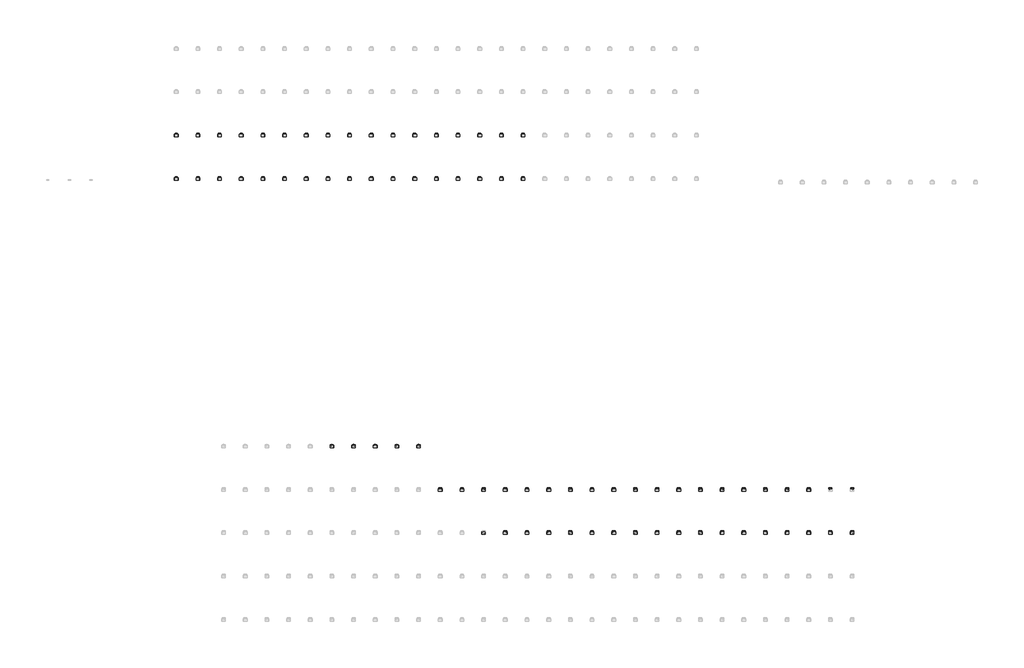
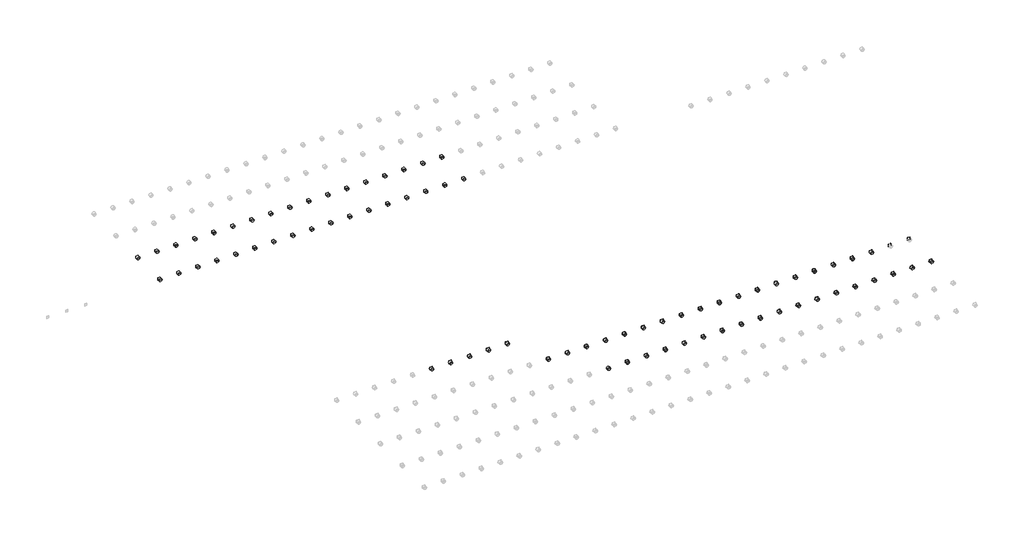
# One storey, part 5 of 18: 76 proxies, 75 cable carrier fittings.
"""IFC4 building model written with IfcOpenShell, lengths in millimetres."""

from ifc_helpers import new_model, si_unit, origin, place, context, project, spatial, transform, mapped, element, save
from components import electrical_fixtures_70e5a59e, electrical_fixtures_cdf9dca8, electrical_fixtures_2a4b2461, electrical_fixtures_0bab7950, electrical_fixtures_51af6a40, electrical_fixtures_0646ccb8, cable_carrier_fitting_a64d4eba

model = new_model("IFC4")

# Units and contexts
model_context = context("Model", 3, world=origin())
ifc_project = project(units=[si_unit("LENGTHUNIT", "METRE", prefix="MILLI")], contexts=[model_context])

# Site, building, storey
site = spatial("IfcSite", under=ifc_project)
building = spatial("IfcBuilding", under=site)
storey = spatial("IfcBuildingStorey", under=building, Name="Этаж 01", Elevation=0.0)

# Proxies
placement = place(None, origin())
electrical_fixtures_shape = electrical_fixtures_70e5a59e(model_context)
element("IfcBuildingElementProxy", 1, Name="IEK_Brite_Механизм выключателя : В2 ИО_ВС10-2-9-БрЖ", ObjectType="IEK_Brite_Механизм выключателя : В2 ИО_ВС10-2-9-БрЖ", at=placement, inside=storey, context=model_context, shape_type="MappedRepresentation", body=[
    mapped(electrical_fixtures_shape, transform((23461.6818904, -15400.0, 0.0), x_axis=(1.0, 0.0, 0.0), y_axis=(0.0, 1.0, 0.0), z_axis=(0.0, 0.0, 1.0))),
])
element("IfcBuildingElementProxy", 2, Name="IEK_Brite_Механизм выключателя : В2 ИО_ВС10-2-9-БрКр", ObjectType="IEK_Brite_Механизм выключателя : В2 ИО_ВС10-2-9-БрКр", at=placement, inside=storey, context=model_context, shape_type="MappedRepresentation", body=[
    mapped(electrical_fixtures_shape, transform((23861.6818904, -15400.0, 0.0), x_axis=(1.0, 0.0, 0.0), y_axis=(0.0, 1.0, 0.0), z_axis=(0.0, 0.0, 1.0))),
])
element("IfcBuildingElementProxy", 3, Name="IEK_Brite_Механизм выключателя : В2 ИО_ВС10-2-9-БрМ", ObjectType="IEK_Brite_Механизм выключателя : В2 ИО_ВС10-2-9-БрМ", at=placement, inside=storey, context=model_context, shape_type="MappedRepresentation", body=[
    mapped(electrical_fixtures_shape, transform((24261.6818904, -15400.0, 0.0), x_axis=(1.0, 0.0, 0.0), y_axis=(0.0, 1.0, 0.0), z_axis=(0.0, 0.0, 1.0))),
])
element("IfcBuildingElementProxy", 4, Name="IEK_Brite_Механизм выключателя : В2 ИО_ВС10-2-9-БрС", ObjectType="IEK_Brite_Механизм выключателя : В2 ИО_ВС10-2-9-БрС", at=placement, inside=storey, context=model_context, shape_type="MappedRepresentation", body=[
    mapped(electrical_fixtures_shape, transform((24661.6818904, -15400.0, 0.0), x_axis=(1.0, 0.0, 0.0), y_axis=(0.0, 1.0, 0.0), z_axis=(0.0, 0.0, 1.0))),
])
element("IfcBuildingElementProxy", 5, Name="IEK_Brite_Механизм выключателя : В2 ИО_ВС10-2-9-БрТБ", ObjectType="IEK_Brite_Механизм выключателя : В2 ИО_ВС10-2-9-БрТБ", at=placement, inside=storey, context=model_context, shape_type="MappedRepresentation", body=[
    mapped(electrical_fixtures_shape, transform((25061.6818904, -15400.0, 0.0), x_axis=(1.0, 0.0, 0.0), y_axis=(0.0, 1.0, 0.0), z_axis=(0.0, 0.0, 1.0))),
])
element("IfcBuildingElementProxy", 6, Name="IEK_Brite_Механизм выключателя : В2 ИО_ВС10-2-9-БрЧ", ObjectType="IEK_Brite_Механизм выключателя : В2 ИО_ВС10-2-9-БрЧ", at=placement, inside=storey, context=model_context, shape_type="MappedRepresentation", body=[
    mapped(electrical_fixtures_shape, transform((25461.6818904, -15400.0, 0.0), x_axis=(1.0, 0.0, 0.0), y_axis=(0.0, 1.0, 0.0), z_axis=(0.0, 0.0, 1.0))),
])
element("IfcBuildingElementProxy", 7, Name="IEK_Brite_Механизм выключателя : В2 ИО_ВС10-2-9-БрШ", ObjectType="IEK_Brite_Механизм выключателя : В2 ИО_ВС10-2-9-БрШ", at=placement, inside=storey, context=model_context, shape_type="MappedRepresentation", body=[
    mapped(electrical_fixtures_shape, transform((25861.6818904, -15400.0, 0.0), x_axis=(1.0, 0.0, 0.0), y_axis=(0.0, 1.0, 0.0), z_axis=(0.0, 0.0, 1.0))),
])
electrical_fixtures_2_shape = electrical_fixtures_cdf9dca8(model_context)
element("IfcBuildingElementProxy", 8, Name="IEK_Brite_Механизм выключателя : В3_ВС10-3-0-БрА", ObjectType="IEK_Brite_Механизм выключателя : В3_ВС10-3-0-БрА", at=placement, inside=storey, context=model_context, shape_type="MappedRepresentation", body=[
    mapped(electrical_fixtures_2_shape, transform((26261.6818904, -15400.0, 0.0), x_axis=(1.0, 0.0, 0.0), y_axis=(0.0, 1.0, 0.0), z_axis=(0.0, 0.0, 1.0))),
])
element("IfcBuildingElementProxy", 9, Name="IEK_Brite_Механизм выключателя : В3_ВС10-3-0-БрБ", ObjectType="IEK_Brite_Механизм выключателя : В3_ВС10-3-0-БрБ", at=placement, inside=storey, context=model_context, shape_type="MappedRepresentation", body=[
    mapped(electrical_fixtures_2_shape, transform((26661.6818904, -15400.0, 0.0), x_axis=(1.0, 0.0, 0.0), y_axis=(0.0, 1.0, 0.0), z_axis=(0.0, 0.0, 1.0))),
])
element("IfcBuildingElementProxy", 10, Name="IEK_Brite_Механизм выключателя : В3_ВС10-3-0-БрГ", ObjectType="IEK_Brite_Механизм выключателя : В3_ВС10-3-0-БрГ", at=placement, inside=storey, context=model_context, shape_type="MappedRepresentation", body=[
    mapped(electrical_fixtures_2_shape, transform((27061.6818904, -15400.0, 0.0), x_axis=(1.0, 0.0, 0.0), y_axis=(0.0, 1.0, 0.0), z_axis=(0.0, 0.0, 1.0))),
])
element("IfcBuildingElementProxy", 11, Name="IEK_Brite_Механизм выключателя : В3_ВС10-3-0-БрЖ", ObjectType="IEK_Brite_Механизм выключателя : В3_ВС10-3-0-БрЖ", at=placement, inside=storey, context=model_context, shape_type="MappedRepresentation", body=[
    mapped(electrical_fixtures_2_shape, transform((27461.6818904, -15400.0, 0.0), x_axis=(1.0, 0.0, 0.0), y_axis=(0.0, 1.0, 0.0), z_axis=(0.0, 0.0, 1.0))),
])
element("IfcBuildingElementProxy", 12, Name="IEK_Brite_Механизм выключателя : В3_ВС10-3-0-БрКр", ObjectType="IEK_Brite_Механизм выключателя : В3_ВС10-3-0-БрКр", at=placement, inside=storey, context=model_context, shape_type="MappedRepresentation", body=[
    mapped(electrical_fixtures_2_shape, transform((27861.6818904, -15400.0, 0.0), x_axis=(1.0, 0.0, 0.0), y_axis=(0.0, 1.0, 0.0), z_axis=(0.0, 0.0, 1.0))),
])
element("IfcBuildingElementProxy", 13, Name="IEK_Brite_Механизм выключателя : В3_ВС10-3-0-БрМ", ObjectType="IEK_Brite_Механизм выключателя : В3_ВС10-3-0-БрМ", at=placement, inside=storey, context=model_context, shape_type="MappedRepresentation", body=[
    mapped(electrical_fixtures_2_shape, transform((28261.6818904, -15400.0, 0.0), x_axis=(1.0, 0.0, 0.0), y_axis=(0.0, 1.0, 0.0), z_axis=(0.0, 0.0, 1.0))),
])
element("IfcBuildingElementProxy", 14, Name="IEK_Brite_Механизм выключателя : В3_ВС10-3-0-БрС", ObjectType="IEK_Brite_Механизм выключателя : В3_ВС10-3-0-БрС", at=placement, inside=storey, context=model_context, shape_type="MappedRepresentation", body=[
    mapped(electrical_fixtures_2_shape, transform((28661.6818904, -15400.0, 0.0), x_axis=(1.0, 0.0, 0.0), y_axis=(0.0, 1.0, 0.0), z_axis=(0.0, 0.0, 1.0))),
])
element("IfcBuildingElementProxy", 15, Name="IEK_Brite_Механизм выключателя : В3_ВС10-3-0-БрТБ", ObjectType="IEK_Brite_Механизм выключателя : В3_ВС10-3-0-БрТБ", at=placement, inside=storey, context=model_context, shape_type="MappedRepresentation", body=[
    mapped(electrical_fixtures_2_shape, transform((29061.6818904, -15400.0, 0.0), x_axis=(1.0, 0.0, 0.0), y_axis=(0.0, 1.0, 0.0), z_axis=(0.0, 0.0, 1.0))),
])
element("IfcBuildingElementProxy", 16, Name="IEK_Brite_Механизм выключателя : В3_ВС10-3-0-БрЧ", ObjectType="IEK_Brite_Механизм выключателя : В3_ВС10-3-0-БрЧ", at=placement, inside=storey, context=model_context, shape_type="MappedRepresentation", body=[
    mapped(electrical_fixtures_2_shape, transform((29461.6818904, -15400.0, 0.0), x_axis=(1.0, 0.0, 0.0), y_axis=(0.0, 1.0, 0.0), z_axis=(0.0, 0.0, 1.0))),
])
element("IfcBuildingElementProxy", 17, Name="IEK_Brite_Механизм выключателя : В3_ВС10-3-0-БрШ", ObjectType="IEK_Brite_Механизм выключателя : В3_ВС10-3-0-БрШ", at=placement, inside=storey, context=model_context, shape_type="MappedRepresentation", body=[
    mapped(electrical_fixtures_2_shape, transform((29861.6818904, -15400.0, 0.0), x_axis=(1.0, 0.0, 0.0), y_axis=(0.0, 1.0, 0.0), z_axis=(0.0, 0.0, 1.0))),
])
electrical_fixtures_3_shape = electrical_fixtures_2a4b2461(model_context)
element("IfcBuildingElementProxy", 18, Name="IEK_Brite_Механизм выключателя : ВК_ВС10-1-8-БрА", ObjectType="IEK_Brite_Механизм выключателя : ВК_ВС10-1-8-БрА", at=placement, inside=storey, context=model_context, shape_type="MappedRepresentation", body=[
    mapped(electrical_fixtures_3_shape, transform((22261.6818904, -14600.0, 0.0), x_axis=(1.0, 0.0, 0.0), y_axis=(0.0, 1.0, 0.0), z_axis=(0.0, 0.0, 1.0))),
])
element("IfcBuildingElementProxy", 19, Name="IEK_Brite_Механизм выключателя : ВК_ВС10-1-8-БрБ", ObjectType="IEK_Brite_Механизм выключателя : ВК_ВС10-1-8-БрБ", at=placement, inside=storey, context=model_context, shape_type="MappedRepresentation", body=[
    mapped(electrical_fixtures_3_shape, transform((22661.6818904, -14600.0, 0.0), x_axis=(1.0, 0.0, 0.0), y_axis=(0.0, 1.0, 0.0), z_axis=(0.0, 0.0, 1.0))),
])
element("IfcBuildingElementProxy", 20, Name="IEK_Brite_Механизм выключателя : ВК_ВС10-1-8-БрГ", ObjectType="IEK_Brite_Механизм выключателя : ВК_ВС10-1-8-БрГ", at=placement, inside=storey, context=model_context, shape_type="MappedRepresentation", body=[
    mapped(electrical_fixtures_3_shape, transform((23061.6818904, -14600.0, 0.0), x_axis=(1.0, 0.0, 0.0), y_axis=(0.0, 1.0, 0.0), z_axis=(0.0, 0.0, 1.0))),
])
element("IfcBuildingElementProxy", 21, Name="IEK_Brite_Механизм выключателя : ВК_ВС10-1-8-БрЖ", ObjectType="IEK_Brite_Механизм выключателя : ВК_ВС10-1-8-БрЖ", at=placement, inside=storey, context=model_context, shape_type="MappedRepresentation", body=[
    mapped(electrical_fixtures_3_shape, transform((23461.6818904, -14600.0, 0.0), x_axis=(1.0, 0.0, 0.0), y_axis=(0.0, 1.0, 0.0), z_axis=(0.0, 0.0, 1.0))),
])
element("IfcBuildingElementProxy", 22, Name="IEK_Brite_Механизм выключателя : ВК_ВС10-1-8-БрКр", ObjectType="IEK_Brite_Механизм выключателя : ВК_ВС10-1-8-БрКр", at=placement, inside=storey, context=model_context, shape_type="MappedRepresentation", body=[
    mapped(electrical_fixtures_3_shape, transform((23861.6818904, -14600.0, 0.0), x_axis=(1.0, 0.0, 0.0), y_axis=(0.0, 1.0, 0.0), z_axis=(0.0, 0.0, 1.0))),
])
element("IfcBuildingElementProxy", 23, Name="IEK_Brite_Механизм выключателя : ВК_ВС10-1-8-БрМ", ObjectType="IEK_Brite_Механизм выключателя : ВК_ВС10-1-8-БрМ", at=placement, inside=storey, context=model_context, shape_type="MappedRepresentation", body=[
    mapped(electrical_fixtures_3_shape, transform((24261.6818904, -14600.0, 0.0), x_axis=(1.0, 0.0, 0.0), y_axis=(0.0, 1.0, 0.0), z_axis=(0.0, 0.0, 1.0))),
])
element("IfcBuildingElementProxy", 24, Name="IEK_Brite_Механизм выключателя : ВК_ВС10-1-8-БрС", ObjectType="IEK_Brite_Механизм выключателя : ВК_ВС10-1-8-БрС", at=placement, inside=storey, context=model_context, shape_type="MappedRepresentation", body=[
    mapped(electrical_fixtures_3_shape, transform((24661.6818904, -14600.0, 0.0), x_axis=(1.0, 0.0, 0.0), y_axis=(0.0, 1.0, 0.0), z_axis=(0.0, 0.0, 1.0))),
])
element("IfcBuildingElementProxy", 25, Name="IEK_Brite_Механизм выключателя : ВК_ВС10-1-8-БрТБ", ObjectType="IEK_Brite_Механизм выключателя : ВК_ВС10-1-8-БрТБ", at=placement, inside=storey, context=model_context, shape_type="MappedRepresentation", body=[
    mapped(electrical_fixtures_3_shape, transform((25061.6818904, -14600.0, 0.0), x_axis=(1.0, 0.0, 0.0), y_axis=(0.0, 1.0, 0.0), z_axis=(0.0, 0.0, 1.0))),
])
element("IfcBuildingElementProxy", 26, Name="IEK_Brite_Механизм выключателя : ВК_ВС10-1-8-БрЧ", ObjectType="IEK_Brite_Механизм выключателя : ВК_ВС10-1-8-БрЧ", at=placement, inside=storey, context=model_context, shape_type="MappedRepresentation", body=[
    mapped(electrical_fixtures_3_shape, transform((25461.6818904, -14600.0, 0.0), x_axis=(1.0, 0.0, 0.0), y_axis=(0.0, 1.0, 0.0), z_axis=(0.0, 0.0, 1.0))),
])
element("IfcBuildingElementProxy", 27, Name="IEK_Brite_Механизм выключателя : ВК_ВС10-1-8-БрШ", ObjectType="IEK_Brite_Механизм выключателя : ВК_ВС10-1-8-БрШ", at=placement, inside=storey, context=model_context, shape_type="MappedRepresentation", body=[
    mapped(electrical_fixtures_3_shape, transform((25861.6818904, -14600.0, 0.0), x_axis=(1.0, 0.0, 0.0), y_axis=(0.0, 1.0, 0.0), z_axis=(0.0, 0.0, 1.0))),
])
electrical_fixtures_4_shape = electrical_fixtures_0bab7950(model_context)
element("IfcBuildingElementProxy", 28, Name="IEK_Brite_Механизм выключателя : Зв_ВС10-1-9-БрА", ObjectType="IEK_Brite_Механизм выключателя : Зв_ВС10-1-9-БрА", at=placement, inside=storey, context=model_context, shape_type="MappedRepresentation", body=[
    mapped(electrical_fixtures_4_shape, transform((26261.6818904, -14600.0, 0.0), x_axis=(1.0, 0.0, 0.0), y_axis=(0.0, 1.0, 0.0), z_axis=(0.0, 0.0, 1.0))),
])
element("IfcBuildingElementProxy", 29, Name="IEK_Brite_Механизм выключателя : Зв_ВС10-1-9-БрБ", ObjectType="IEK_Brite_Механизм выключателя : Зв_ВС10-1-9-БрБ", at=placement, inside=storey, context=model_context, shape_type="MappedRepresentation", body=[
    mapped(electrical_fixtures_4_shape, transform((26661.6818904, -14600.0, 0.0), x_axis=(1.0, 0.0, 0.0), y_axis=(0.0, 1.0, 0.0), z_axis=(0.0, 0.0, 1.0))),
])
element("IfcBuildingElementProxy", 30, Name="IEK_Brite_Механизм выключателя : Зв_ВС10-1-9-БрГ", ObjectType="IEK_Brite_Механизм выключателя : Зв_ВС10-1-9-БрГ", at=placement, inside=storey, context=model_context, shape_type="MappedRepresentation", body=[
    mapped(electrical_fixtures_4_shape, transform((27061.6818904, -14600.0, 0.0), x_axis=(1.0, 0.0, 0.0), y_axis=(0.0, 1.0, 0.0), z_axis=(0.0, 0.0, 1.0))),
])
element("IfcBuildingElementProxy", 31, Name="IEK_Brite_Механизм выключателя : Зв_ВС10-1-9-БрЖ", ObjectType="IEK_Brite_Механизм выключателя : Зв_ВС10-1-9-БрЖ", at=placement, inside=storey, context=model_context, shape_type="MappedRepresentation", body=[
    mapped(electrical_fixtures_4_shape, transform((27461.6818904, -14600.0, 0.0), x_axis=(1.0, 0.0, 0.0), y_axis=(0.0, 1.0, 0.0), z_axis=(0.0, 0.0, 1.0))),
])
element("IfcBuildingElementProxy", 32, Name="IEK_Brite_Механизм выключателя : Зв_ВС10-1-9-БрКр", ObjectType="IEK_Brite_Механизм выключателя : Зв_ВС10-1-9-БрКр", at=placement, inside=storey, context=model_context, shape_type="MappedRepresentation", body=[
    mapped(electrical_fixtures_4_shape, transform((27861.6818904, -14600.0, 0.0), x_axis=(1.0, 0.0, 0.0), y_axis=(0.0, 1.0, 0.0), z_axis=(0.0, 0.0, 1.0))),
])
element("IfcBuildingElementProxy", 33, Name="IEK_Brite_Механизм выключателя : Зв_ВС10-1-9-БрМ", ObjectType="IEK_Brite_Механизм выключателя : Зв_ВС10-1-9-БрМ", at=placement, inside=storey, context=model_context, shape_type="MappedRepresentation", body=[
    mapped(electrical_fixtures_4_shape, transform((28261.6818904, -14600.0, 0.0), x_axis=(1.0, 0.0, 0.0), y_axis=(0.0, 1.0, 0.0), z_axis=(0.0, 0.0, 1.0))),
])
element("IfcBuildingElementProxy", 34, Name="IEK_Brite_Механизм выключателя : Зв_ВС10-1-9-БрС", ObjectType="IEK_Brite_Механизм выключателя : Зв_ВС10-1-9-БрС", at=placement, inside=storey, context=model_context, shape_type="MappedRepresentation", body=[
    mapped(electrical_fixtures_4_shape, transform((28661.6818904, -14600.0, 0.0), x_axis=(1.0, 0.0, 0.0), y_axis=(0.0, 1.0, 0.0), z_axis=(0.0, 0.0, 1.0))),
])
element("IfcBuildingElementProxy", 35, Name="IEK_Brite_Механизм выключателя : Зв_ВС10-1-9-БрТБ", ObjectType="IEK_Brite_Механизм выключателя : Зв_ВС10-1-9-БрТБ", at=placement, inside=storey, context=model_context, shape_type="MappedRepresentation", body=[
    mapped(electrical_fixtures_4_shape, transform((29061.6818904, -14600.0, 0.0), x_axis=(1.0, 0.0, 0.0), y_axis=(0.0, 1.0, 0.0), z_axis=(0.0, 0.0, 1.0))),
])
element("IfcBuildingElementProxy", 36, Name="IEK_Brite_Механизм выключателя : Зв_ВС10-1-9-БрЧ", ObjectType="IEK_Brite_Механизм выключателя : Зв_ВС10-1-9-БрЧ", at=placement, inside=storey, context=model_context, shape_type="MappedRepresentation", body=[
    mapped(electrical_fixtures_4_shape, transform((29461.6818904, -14600.0, 0.0), x_axis=(1.0, 0.0, 0.0), y_axis=(0.0, 1.0, 0.0), z_axis=(0.0, 0.0, 1.0))),
])
element("IfcBuildingElementProxy", 37, Name="IEK_Brite_Механизм выключателя : Зв_ВС10-1-9-БрШ", ObjectType="IEK_Brite_Механизм выключателя : Зв_ВС10-1-9-БрШ", at=placement, inside=storey, context=model_context, shape_type="MappedRepresentation", body=[
    mapped(electrical_fixtures_4_shape, transform((29861.6818904, -14600.0, 0.0), x_axis=(1.0, 0.0, 0.0), y_axis=(0.0, 1.0, 0.0), z_axis=(0.0, 0.0, 1.0))),
])
electrical_fixtures_5_shape = electrical_fixtures_51af6a40(model_context)
element("IfcBuildingElementProxy", 38, Name="IEK_Brite_Механизм выключателя : ДД_ДС10-1-БрМ", ObjectType="IEK_Brite_Механизм выключателя : ДД_ДС10-1-БрМ", at=placement, inside=storey, context=model_context, shape_type="MappedRepresentation", body=[
    mapped(electrical_fixtures_5_shape, transform((20261.6818904, -13800.0, 0.0), x_axis=(1.0, 0.0, 0.0), y_axis=(0.0, 1.0, 0.0), z_axis=(0.0, 0.0, 1.0))),
])
element("IfcBuildingElementProxy", 39, Name="IEK_Brite_Механизм выключателя : ДД_ДС10-1-БрС", ObjectType="IEK_Brite_Механизм выключателя : ДД_ДС10-1-БрС", at=placement, inside=storey, context=model_context, shape_type="MappedRepresentation", body=[
    mapped(electrical_fixtures_5_shape, transform((20661.6818904, -13800.0, 0.0), x_axis=(1.0, 0.0, 0.0), y_axis=(0.0, 1.0, 0.0), z_axis=(0.0, 0.0, 1.0))),
])
element("IfcBuildingElementProxy", 40, Name="IEK_Brite_Механизм выключателя : ДД_ДС10-1-БрТБ", ObjectType="IEK_Brite_Механизм выключателя : ДД_ДС10-1-БрТБ", at=placement, inside=storey, context=model_context, shape_type="MappedRepresentation", body=[
    mapped(electrical_fixtures_5_shape, transform((21061.6818904, -13800.0, 0.0), x_axis=(1.0, 0.0, 0.0), y_axis=(0.0, 1.0, 0.0), z_axis=(0.0, 0.0, 1.0))),
])
element("IfcBuildingElementProxy", 41, Name="IEK_Brite_Механизм выключателя : ДД_ДС10-1-БрЧ", ObjectType="IEK_Brite_Механизм выключателя : ДД_ДС10-1-БрЧ", at=placement, inside=storey, context=model_context, shape_type="MappedRepresentation", body=[
    mapped(electrical_fixtures_5_shape, transform((21461.6818904, -13800.0, 0.0), x_axis=(1.0, 0.0, 0.0), y_axis=(0.0, 1.0, 0.0), z_axis=(0.0, 0.0, 1.0))),
])
element("IfcBuildingElementProxy", 42, Name="IEK_Brite_Механизм выключателя : ДД_ДС10-1-БрШ", ObjectType="IEK_Brite_Механизм выключателя : ДД_ДС10-1-БрШ", at=placement, inside=storey, context=model_context, shape_type="MappedRepresentation", body=[
    mapped(electrical_fixtures_5_shape, transform((21861.6818904, -13800.0, 0.0), x_axis=(1.0, 0.0, 0.0), y_axis=(0.0, 1.0, 0.0), z_axis=(0.0, 0.0, 1.0))),
])
electrical_fixtures_6_shape = electrical_fixtures_0646ccb8(model_context)
element("IfcBuildingElementProxy", 43, Name="IEK_Skandy_Механизм выключателя : В1_SK-V01B", ObjectType="IEK_Skandy_Механизм выключателя : В1_SK-V01B", at=placement, inside=storey, context=model_context, shape_type="MappedRepresentation", body=[
    mapped(electrical_fixtures_6_shape, transform((17388.7290788, -8860.0, 0.0), x_axis=(1.0, 0.0, 0.0), y_axis=(0.0, 1.0, 0.0), z_axis=(0.0, 0.0, 1.0))),
])
element("IfcBuildingElementProxy", 44, Name="IEK_Skandy_Механизм выключателя : В1_SK-V01Bl", ObjectType="IEK_Skandy_Механизм выключателя : В1_SK-V01Bl", at=placement, inside=storey, context=model_context, shape_type="MappedRepresentation", body=[
    mapped(electrical_fixtures_6_shape, transform((17788.7290788, -8860.0, 0.0), x_axis=(1.0, 0.0, 0.0), y_axis=(0.0, 1.0, 0.0), z_axis=(0.0, 0.0, 1.0))),
])
element("IfcBuildingElementProxy", 45, Name="IEK_Skandy_Механизм выключателя : В1_SK-V01G", ObjectType="IEK_Skandy_Механизм выключателя : В1_SK-V01G", at=placement, inside=storey, context=model_context, shape_type="MappedRepresentation", body=[
    mapped(electrical_fixtures_6_shape, transform((18188.7290788, -8860.0, 0.0), x_axis=(1.0, 0.0, 0.0), y_axis=(0.0, 1.0, 0.0), z_axis=(0.0, 0.0, 1.0))),
])
element("IfcBuildingElementProxy", 46, Name="IEK_Skandy_Механизм выключателя : В1_SK-V01Gr", ObjectType="IEK_Skandy_Механизм выключателя : В1_SK-V01Gr", at=placement, inside=storey, context=model_context, shape_type="MappedRepresentation", body=[
    mapped(electrical_fixtures_6_shape, transform((18588.7290788, -8860.0, 0.0), x_axis=(1.0, 0.0, 0.0), y_axis=(0.0, 1.0, 0.0), z_axis=(0.0, 0.0, 1.0))),
])
element("IfcBuildingElementProxy", 47, Name="IEK_Skandy_Механизм выключателя : В1_SK-V01M", ObjectType="IEK_Skandy_Механизм выключателя : В1_SK-V01M", at=placement, inside=storey, context=model_context, shape_type="MappedRepresentation", body=[
    mapped(electrical_fixtures_6_shape, transform((18988.7290788, -8860.0, 0.0), x_axis=(1.0, 0.0, 0.0), y_axis=(0.0, 1.0, 0.0), z_axis=(0.0, 0.0, 1.0))),
])
element("IfcBuildingElementProxy", 48, Name="IEK_Skandy_Механизм выключателя : В1_SK-V01N", ObjectType="IEK_Skandy_Механизм выключателя : В1_SK-V01N", at=placement, inside=storey, context=model_context, shape_type="MappedRepresentation", body=[
    mapped(electrical_fixtures_6_shape, transform((19388.7290788, -8860.0, 0.0), x_axis=(1.0, 0.0, 0.0), y_axis=(0.0, 1.0, 0.0), z_axis=(0.0, 0.0, 1.0))),
])
element("IfcBuildingElementProxy", 49, Name="IEK_Skandy_Механизм выключателя : В1_SK-V01S", ObjectType="IEK_Skandy_Механизм выключателя : В1_SK-V01S", at=placement, inside=storey, context=model_context, shape_type="MappedRepresentation", body=[
    mapped(electrical_fixtures_6_shape, transform((19788.7290788, -8860.0, 0.0), x_axis=(1.0, 0.0, 0.0), y_axis=(0.0, 1.0, 0.0), z_axis=(0.0, 0.0, 1.0))),
])
element("IfcBuildingElementProxy", 50, Name="IEK_Skandy_Механизм выключателя : В1_SK-V01Sa", ObjectType="IEK_Skandy_Механизм выключателя : В1_SK-V01Sa", at=placement, inside=storey, context=model_context, shape_type="MappedRepresentation", body=[
    mapped(electrical_fixtures_6_shape, transform((20188.7290788, -8860.0, 0.0), x_axis=(1.0, 0.0, 0.0), y_axis=(0.0, 1.0, 0.0), z_axis=(0.0, 0.0, 1.0))),
])
element("IfcBuildingElementProxy", 51, Name="IEK_Skandy_Механизм выключателя : В1_SK-V01Sh", ObjectType="IEK_Skandy_Механизм выключателя : В1_SK-V01Sh", at=placement, inside=storey, context=model_context, shape_type="MappedRepresentation", body=[
    mapped(electrical_fixtures_6_shape, transform((20588.7290788, -8860.0, 0.0), x_axis=(1.0, 0.0, 0.0), y_axis=(0.0, 1.0, 0.0), z_axis=(0.0, 0.0, 1.0))),
])
element("IfcBuildingElementProxy", 52, Name="IEK_Skandy_Механизм выключателя : В1_SK-V01T", ObjectType="IEK_Skandy_Механизм выключателя : В1_SK-V01T", at=placement, inside=storey, context=model_context, shape_type="MappedRepresentation", body=[
    mapped(electrical_fixtures_6_shape, transform((20988.7290788, -8860.0, 0.0), x_axis=(1.0, 0.0, 0.0), y_axis=(0.0, 1.0, 0.0), z_axis=(0.0, 0.0, 1.0))),
])
element("IfcBuildingElementProxy", 53, Name="IEK_Skandy_Механизм выключателя : В1_SK-V01W", ObjectType="IEK_Skandy_Механизм выключателя : В1_SK-V01W", at=placement, inside=storey, context=model_context, shape_type="MappedRepresentation", body=[
    mapped(electrical_fixtures_6_shape, transform((21388.7290788, -8860.0, 0.0), x_axis=(1.0, 0.0, 0.0), y_axis=(0.0, 1.0, 0.0), z_axis=(0.0, 0.0, 1.0))),
])
element("IfcBuildingElementProxy", 54, Name="IEK_Skandy_Механизм выключателя : ВК1_SK-V14B", ObjectType="IEK_Skandy_Механизм выключателя : ВК1_SK-V14B", at=placement, inside=storey, context=model_context, shape_type="MappedRepresentation", body=[
    mapped(electrical_fixtures_6_shape, transform((21788.7290788, -8860.0, 0.0), x_axis=(1.0, 0.0, 0.0), y_axis=(0.0, 1.0, 0.0), z_axis=(0.0, 0.0, 1.0))),
])
element("IfcBuildingElementProxy", 55, Name="IEK_Skandy_Механизм выключателя : ВК1_SK-V14Bl", ObjectType="IEK_Skandy_Механизм выключателя : ВК1_SK-V14Bl", at=placement, inside=storey, context=model_context, shape_type="MappedRepresentation", body=[
    mapped(electrical_fixtures_6_shape, transform((22188.7290788, -8860.0, 0.0), x_axis=(1.0, 0.0, 0.0), y_axis=(0.0, 1.0, 0.0), z_axis=(0.0, 0.0, 1.0))),
])
element("IfcBuildingElementProxy", 56, Name="IEK_Skandy_Механизм выключателя : ВК1_SK-V14G", ObjectType="IEK_Skandy_Механизм выключателя : ВК1_SK-V14G", at=placement, inside=storey, context=model_context, shape_type="MappedRepresentation", body=[
    mapped(electrical_fixtures_6_shape, transform((22588.7290788, -8860.0, 0.0), x_axis=(1.0, 0.0, 0.0), y_axis=(0.0, 1.0, 0.0), z_axis=(0.0, 0.0, 1.0))),
])
element("IfcBuildingElementProxy", 57, Name="IEK_Skandy_Механизм выключателя : ВК1_SK-V14Gr", ObjectType="IEK_Skandy_Механизм выключателя : ВК1_SK-V14Gr", at=placement, inside=storey, context=model_context, shape_type="MappedRepresentation", body=[
    mapped(electrical_fixtures_6_shape, transform((22988.7290788, -8860.0, 0.0), x_axis=(1.0, 0.0, 0.0), y_axis=(0.0, 1.0, 0.0), z_axis=(0.0, 0.0, 1.0))),
])
element("IfcBuildingElementProxy", 58, Name="IEK_Skandy_Механизм выключателя : ВК1_SK-V14M", ObjectType="IEK_Skandy_Механизм выключателя : ВК1_SK-V14M", at=placement, inside=storey, context=model_context, shape_type="MappedRepresentation", body=[
    mapped(electrical_fixtures_6_shape, transform((23388.7290788, -8860.0, 0.0), x_axis=(1.0, 0.0, 0.0), y_axis=(0.0, 1.0, 0.0), z_axis=(0.0, 0.0, 1.0))),
])
element("IfcBuildingElementProxy", 59, Name="IEK_Skandy_Механизм выключателя : ВК1_SK-V14N", ObjectType="IEK_Skandy_Механизм выключателя : ВК1_SK-V14N", at=placement, inside=storey, context=model_context, shape_type="MappedRepresentation", body=[
    mapped(electrical_fixtures_6_shape, transform((23788.7290788, -8860.0, 0.0), x_axis=(1.0, 0.0, 0.0), y_axis=(0.0, 1.0, 0.0), z_axis=(0.0, 0.0, 1.0))),
])
element("IfcBuildingElementProxy", 60, Name="IEK_Skandy_Механизм выключателя : ВП1_SK-V03Gr", ObjectType="IEK_Skandy_Механизм выключателя : ВП1_SK-V03Gr", at=placement, inside=storey, context=model_context, shape_type="MappedRepresentation", body=[
    mapped(electrical_fixtures_6_shape, transform((17388.7290788, -8060.0, 0.0), x_axis=(1.0, 0.0, 0.0), y_axis=(0.0, 1.0, 0.0), z_axis=(0.0, 0.0, 1.0))),
])
element("IfcBuildingElementProxy", 61, Name="IEK_Skandy_Механизм выключателя : ВП1_SK-V03M", ObjectType="IEK_Skandy_Механизм выключателя : ВП1_SK-V03M", at=placement, inside=storey, context=model_context, shape_type="MappedRepresentation", body=[
    mapped(electrical_fixtures_6_shape, transform((17788.7290788, -8060.0, 0.0), x_axis=(1.0, 0.0, 0.0), y_axis=(0.0, 1.0, 0.0), z_axis=(0.0, 0.0, 1.0))),
])
element("IfcBuildingElementProxy", 62, Name="IEK_Skandy_Механизм выключателя : ВП1_SK-V03N", ObjectType="IEK_Skandy_Механизм выключателя : ВП1_SK-V03N", at=placement, inside=storey, context=model_context, shape_type="MappedRepresentation", body=[
    mapped(electrical_fixtures_6_shape, transform((18188.7290788, -8060.0, 0.0), x_axis=(1.0, 0.0, 0.0), y_axis=(0.0, 1.0, 0.0), z_axis=(0.0, 0.0, 1.0))),
])
element("IfcBuildingElementProxy", 63, Name="IEK_Skandy_Механизм выключателя : ВП1_SK-V03S", ObjectType="IEK_Skandy_Механизм выключателя : ВП1_SK-V03S", at=placement, inside=storey, context=model_context, shape_type="MappedRepresentation", body=[
    mapped(electrical_fixtures_6_shape, transform((18588.7290788, -8060.0, 0.0), x_axis=(1.0, 0.0, 0.0), y_axis=(0.0, 1.0, 0.0), z_axis=(0.0, 0.0, 1.0))),
])
element("IfcBuildingElementProxy", 64, Name="IEK_Skandy_Механизм выключателя : ВП1_SK-V03Sa", ObjectType="IEK_Skandy_Механизм выключателя : ВП1_SK-V03Sa", at=placement, inside=storey, context=model_context, shape_type="MappedRepresentation", body=[
    mapped(electrical_fixtures_6_shape, transform((18988.7290788, -8060.0, 0.0), x_axis=(1.0, 0.0, 0.0), y_axis=(0.0, 1.0, 0.0), z_axis=(0.0, 0.0, 1.0))),
])
element("IfcBuildingElementProxy", 65, Name="IEK_Skandy_Механизм выключателя : ВП1_SK-V03Sh", ObjectType="IEK_Skandy_Механизм выключателя : ВП1_SK-V03Sh", at=placement, inside=storey, context=model_context, shape_type="MappedRepresentation", body=[
    mapped(electrical_fixtures_6_shape, transform((19388.7290788, -8060.0, 0.0), x_axis=(1.0, 0.0, 0.0), y_axis=(0.0, 1.0, 0.0), z_axis=(0.0, 0.0, 1.0))),
])
element("IfcBuildingElementProxy", 66, Name="IEK_Skandy_Механизм выключателя : ВП1_SK-V03T", ObjectType="IEK_Skandy_Механизм выключателя : ВП1_SK-V03T", at=placement, inside=storey, context=model_context, shape_type="MappedRepresentation", body=[
    mapped(electrical_fixtures_6_shape, transform((19788.7290788, -8060.0, 0.0), x_axis=(1.0, 0.0, 0.0), y_axis=(0.0, 1.0, 0.0), z_axis=(0.0, 0.0, 1.0))),
])
element("IfcBuildingElementProxy", 67, Name="IEK_Skandy_Механизм выключателя : ВП1_SK-V03W", ObjectType="IEK_Skandy_Механизм выключателя : ВП1_SK-V03W", at=placement, inside=storey, context=model_context, shape_type="MappedRepresentation", body=[
    mapped(electrical_fixtures_6_shape, transform((20188.7290788, -8060.0, 0.0), x_axis=(1.0, 0.0, 0.0), y_axis=(0.0, 1.0, 0.0), z_axis=(0.0, 0.0, 1.0))),
])
element("IfcBuildingElementProxy", 68, Name="IEK_Skandy_Механизм выключателя : ВПр1_SK-V02B", ObjectType="IEK_Skandy_Механизм выключателя : ВПр1_SK-V02B", at=placement, inside=storey, context=model_context, shape_type="MappedRepresentation", body=[
    mapped(electrical_fixtures_6_shape, transform((20588.7290788, -8060.0, 0.0), x_axis=(1.0, 0.0, 0.0), y_axis=(0.0, 1.0, 0.0), z_axis=(0.0, 0.0, 1.0))),
])
element("IfcBuildingElementProxy", 69, Name="IEK_Skandy_Механизм выключателя : ВПр1_SK-V02Bl", ObjectType="IEK_Skandy_Механизм выключателя : ВПр1_SK-V02Bl", at=placement, inside=storey, context=model_context, shape_type="MappedRepresentation", body=[
    mapped(electrical_fixtures_6_shape, transform((20988.7290788, -8060.0, 0.0), x_axis=(1.0, 0.0, 0.0), y_axis=(0.0, 1.0, 0.0), z_axis=(0.0, 0.0, 1.0))),
])
element("IfcBuildingElementProxy", 70, Name="IEK_Skandy_Механизм выключателя : ВПр1_SK-V02G", ObjectType="IEK_Skandy_Механизм выключателя : ВПр1_SK-V02G", at=placement, inside=storey, context=model_context, shape_type="MappedRepresentation", body=[
    mapped(electrical_fixtures_6_shape, transform((21388.7290788, -8060.0, 0.0), x_axis=(1.0, 0.0, 0.0), y_axis=(0.0, 1.0, 0.0), z_axis=(0.0, 0.0, 1.0))),
])
element("IfcBuildingElementProxy", 71, Name="IEK_Skandy_Механизм выключателя : ВПр1_SK-V02Gr", ObjectType="IEK_Skandy_Механизм выключателя : ВПр1_SK-V02Gr", at=placement, inside=storey, context=model_context, shape_type="MappedRepresentation", body=[
    mapped(electrical_fixtures_6_shape, transform((21788.7290788, -8060.0, 0.0), x_axis=(1.0, 0.0, 0.0), y_axis=(0.0, 1.0, 0.0), z_axis=(0.0, 0.0, 1.0))),
])
element("IfcBuildingElementProxy", 72, Name="IEK_Skandy_Механизм выключателя : ВПр1_SK-V02M", ObjectType="IEK_Skandy_Механизм выключателя : ВПр1_SK-V02M", at=placement, inside=storey, context=model_context, shape_type="MappedRepresentation", body=[
    mapped(electrical_fixtures_6_shape, transform((22188.7290788, -8060.0, 0.0), x_axis=(1.0, 0.0, 0.0), y_axis=(0.0, 1.0, 0.0), z_axis=(0.0, 0.0, 1.0))),
])
element("IfcBuildingElementProxy", 73, Name="IEK_Skandy_Механизм выключателя : ВПр1_SK-V02N", ObjectType="IEK_Skandy_Механизм выключателя : ВПр1_SK-V02N", at=placement, inside=storey, context=model_context, shape_type="MappedRepresentation", body=[
    mapped(electrical_fixtures_6_shape, transform((22588.7290788, -8060.0, 0.0), x_axis=(1.0, 0.0, 0.0), y_axis=(0.0, 1.0, 0.0), z_axis=(0.0, 0.0, 1.0))),
])
element("IfcBuildingElementProxy", 74, Name="IEK_Skandy_Механизм выключателя : ВПр1_SK-V02S", ObjectType="IEK_Skandy_Механизм выключателя : ВПр1_SK-V02S", at=placement, inside=storey, context=model_context, shape_type="MappedRepresentation", body=[
    mapped(electrical_fixtures_6_shape, transform((22988.7290788, -8060.0, 0.0), x_axis=(1.0, 0.0, 0.0), y_axis=(0.0, 1.0, 0.0), z_axis=(0.0, 0.0, 1.0))),
])
element("IfcBuildingElementProxy", 75, Name="IEK_Skandy_Механизм выключателя : ВПр1_SK-V02Sa", ObjectType="IEK_Skandy_Механизм выключателя : ВПр1_SK-V02Sa", at=placement, inside=storey, context=model_context, shape_type="MappedRepresentation", body=[
    mapped(electrical_fixtures_6_shape, transform((23388.7290788, -8060.0, 0.0), x_axis=(1.0, 0.0, 0.0), y_axis=(0.0, 1.0, 0.0), z_axis=(0.0, 0.0, 1.0))),
])
element("IfcBuildingElementProxy", 76, Name="IEK_Skandy_Механизм выключателя : ВПр1_SK-V02Sh", ObjectType="IEK_Skandy_Механизм выключателя : ВПр1_SK-V02Sh", at=placement, inside=storey, context=model_context, shape_type="MappedRepresentation", body=[
    mapped(electrical_fixtures_6_shape, transform((23788.7290788, -8060.0, 0.0), x_axis=(1.0, 0.0, 0.0), y_axis=(0.0, 1.0, 0.0), z_axis=(0.0, 0.0, 1.0))),
])

# Cable carrier fittings
cable_carrier_fitting_shape = cable_carrier_fitting_a64d4eba(model_context)
element("IfcCableCarrierFitting", 77, ObjectType="IEK_Коробка монтажная : стены_полые", at=placement, inside=storey, context=model_context, shape_type="MappedRepresentation", body=[
    mapped(cable_carrier_fitting_shape, transform((23061.6818904, -15400.0, 0.0), x_axis=(1.0, 0.0, 0.0), y_axis=(0.0, 1.0, 0.0), z_axis=(0.0, 0.0, 1.0))),
])
element("IfcCableCarrierFitting", 78, ObjectType="IEK_Коробка монтажная : стены_полые", at=placement, inside=storey, context=model_context, shape_type="MappedRepresentation", body=[
    mapped(cable_carrier_fitting_shape, transform((23461.6818904, -15400.0, 0.0), x_axis=(1.0, 0.0, 0.0), y_axis=(0.0, 1.0, 0.0), z_axis=(0.0, 0.0, 1.0))),
])
element("IfcCableCarrierFitting", 79, ObjectType="IEK_Коробка монтажная : стены_полые", at=placement, inside=storey, context=model_context, shape_type="MappedRepresentation", body=[
    mapped(cable_carrier_fitting_shape, transform((23861.6818904, -15400.0, 0.0), x_axis=(1.0, 0.0, 0.0), y_axis=(0.0, 1.0, 0.0), z_axis=(0.0, 0.0, 1.0))),
])
element("IfcCableCarrierFitting", 80, ObjectType="IEK_Коробка монтажная : стены_полые", at=placement, inside=storey, context=model_context, shape_type="MappedRepresentation", body=[
    mapped(cable_carrier_fitting_shape, transform((24261.6818904, -15400.0, 0.0), x_axis=(1.0, 0.0, 0.0), y_axis=(0.0, 1.0, 0.0), z_axis=(0.0, 0.0, 1.0))),
])
element("IfcCableCarrierFitting", 81, ObjectType="IEK_Коробка монтажная : стены_полые", at=placement, inside=storey, context=model_context, shape_type="MappedRepresentation", body=[
    mapped(cable_carrier_fitting_shape, transform((24661.6818904, -15400.0, 0.0), x_axis=(1.0, 0.0, 0.0), y_axis=(0.0, 1.0, 0.0), z_axis=(0.0, 0.0, 1.0))),
])
element("IfcCableCarrierFitting", 82, ObjectType="IEK_Коробка монтажная : стены_полые", at=placement, inside=storey, context=model_context, shape_type="MappedRepresentation", body=[
    mapped(cable_carrier_fitting_shape, transform((25061.6818904, -15400.0, 0.0), x_axis=(1.0, 0.0, 0.0), y_axis=(0.0, 1.0, 0.0), z_axis=(0.0, 0.0, 1.0))),
])
element("IfcCableCarrierFitting", 83, ObjectType="IEK_Коробка монтажная : стены_полые", at=placement, inside=storey, context=model_context, shape_type="MappedRepresentation", body=[
    mapped(cable_carrier_fitting_shape, transform((25461.6818904, -15400.0, 0.0), x_axis=(1.0, 0.0, 0.0), y_axis=(0.0, 1.0, 0.0), z_axis=(0.0, 0.0, 1.0))),
])
element("IfcCableCarrierFitting", 84, ObjectType="IEK_Коробка монтажная : стены_полые", at=placement, inside=storey, context=model_context, shape_type="MappedRepresentation", body=[
    mapped(cable_carrier_fitting_shape, transform((25861.6818904, -15400.0, 0.0), x_axis=(1.0, 0.0, 0.0), y_axis=(0.0, 1.0, 0.0), z_axis=(0.0, 0.0, 1.0))),
])
element("IfcCableCarrierFitting", 85, ObjectType="IEK_Коробка монтажная : стены_полые", at=placement, inside=storey, context=model_context, shape_type="MappedRepresentation", body=[
    mapped(cable_carrier_fitting_shape, transform((26261.6818904, -15400.0, 0.0), x_axis=(1.0, 0.0, 0.0), y_axis=(0.0, 1.0, 0.0), z_axis=(0.0, 0.0, 1.0))),
])
element("IfcCableCarrierFitting", 86, ObjectType="IEK_Коробка монтажная : стены_полые", at=placement, inside=storey, context=model_context, shape_type="MappedRepresentation", body=[
    mapped(cable_carrier_fitting_shape, transform((26661.6818904, -15400.0, 0.0), x_axis=(1.0, 0.0, 0.0), y_axis=(0.0, 1.0, 0.0), z_axis=(0.0, 0.0, 1.0))),
])
element("IfcCableCarrierFitting", 87, ObjectType="IEK_Коробка монтажная : стены_полые", at=placement, inside=storey, context=model_context, shape_type="MappedRepresentation", body=[
    mapped(cable_carrier_fitting_shape, transform((27061.6818904, -15400.0, 0.0), x_axis=(1.0, 0.0, 0.0), y_axis=(0.0, 1.0, 0.0), z_axis=(0.0, 0.0, 1.0))),
])
element("IfcCableCarrierFitting", 88, ObjectType="IEK_Коробка монтажная : стены_полые", at=placement, inside=storey, context=model_context, shape_type="MappedRepresentation", body=[
    mapped(cable_carrier_fitting_shape, transform((27461.6818904, -15400.0, 0.0), x_axis=(1.0, 0.0, 0.0), y_axis=(0.0, 1.0, 0.0), z_axis=(0.0, 0.0, 1.0))),
])
element("IfcCableCarrierFitting", 89, ObjectType="IEK_Коробка монтажная : стены_полые", at=placement, inside=storey, context=model_context, shape_type="MappedRepresentation", body=[
    mapped(cable_carrier_fitting_shape, transform((27861.6818904, -15400.0, 0.0), x_axis=(1.0, 0.0, 0.0), y_axis=(0.0, 1.0, 0.0), z_axis=(0.0, 0.0, 1.0))),
])
element("IfcCableCarrierFitting", 90, ObjectType="IEK_Коробка монтажная : стены_полые", at=placement, inside=storey, context=model_context, shape_type="MappedRepresentation", body=[
    mapped(cable_carrier_fitting_shape, transform((28261.6818904, -15400.0, 0.0), x_axis=(1.0, 0.0, 0.0), y_axis=(0.0, 1.0, 0.0), z_axis=(0.0, 0.0, 1.0))),
])
element("IfcCableCarrierFitting", 91, ObjectType="IEK_Коробка монтажная : стены_полые", at=placement, inside=storey, context=model_context, shape_type="MappedRepresentation", body=[
    mapped(cable_carrier_fitting_shape, transform((28661.6818904, -15400.0, 0.0), x_axis=(1.0, 0.0, 0.0), y_axis=(0.0, 1.0, 0.0), z_axis=(0.0, 0.0, 1.0))),
])
element("IfcCableCarrierFitting", 92, ObjectType="IEK_Коробка монтажная : стены_полые", at=placement, inside=storey, context=model_context, shape_type="MappedRepresentation", body=[
    mapped(cable_carrier_fitting_shape, transform((29061.6818904, -15400.0, 0.0), x_axis=(1.0, 0.0, 0.0), y_axis=(0.0, 1.0, 0.0), z_axis=(0.0, 0.0, 1.0))),
])
element("IfcCableCarrierFitting", 93, ObjectType="IEK_Коробка монтажная : стены_полые", at=placement, inside=storey, context=model_context, shape_type="MappedRepresentation", body=[
    mapped(cable_carrier_fitting_shape, transform((29461.6818904, -15400.0, 0.0), x_axis=(1.0, 0.0, 0.0), y_axis=(0.0, 1.0, 0.0), z_axis=(0.0, 0.0, 1.0))),
])
element("IfcCableCarrierFitting", 94, ObjectType="IEK_Коробка монтажная : стены_полые", at=placement, inside=storey, context=model_context, shape_type="MappedRepresentation", body=[
    mapped(cable_carrier_fitting_shape, transform((29861.6818904, -15400.0, 0.0), x_axis=(1.0, 0.0, 0.0), y_axis=(0.0, 1.0, 0.0), z_axis=(0.0, 0.0, 1.0))),
])
element("IfcCableCarrierFitting", 95, ObjectType="IEK_Коробка монтажная : стены_полые", at=placement, inside=storey, context=model_context, shape_type="MappedRepresentation", body=[
    mapped(cable_carrier_fitting_shape, transform((22261.6818904, -14600.0, 0.0), x_axis=(1.0, 0.0, 0.0), y_axis=(0.0, 1.0, 0.0), z_axis=(0.0, 0.0, 1.0))),
])
element("IfcCableCarrierFitting", 96, ObjectType="IEK_Коробка монтажная : стены_полые", at=placement, inside=storey, context=model_context, shape_type="MappedRepresentation", body=[
    mapped(cable_carrier_fitting_shape, transform((22661.6818904, -14600.0, 0.0), x_axis=(1.0, 0.0, 0.0), y_axis=(0.0, 1.0, 0.0), z_axis=(0.0, 0.0, 1.0))),
])
element("IfcCableCarrierFitting", 97, ObjectType="IEK_Коробка монтажная : стены_полые", at=placement, inside=storey, context=model_context, shape_type="MappedRepresentation", body=[
    mapped(cable_carrier_fitting_shape, transform((23061.6818904, -14600.0, 0.0), x_axis=(1.0, 0.0, 0.0), y_axis=(0.0, 1.0, 0.0), z_axis=(0.0, 0.0, 1.0))),
])
element("IfcCableCarrierFitting", 98, ObjectType="IEK_Коробка монтажная : стены_полые", at=placement, inside=storey, context=model_context, shape_type="MappedRepresentation", body=[
    mapped(cable_carrier_fitting_shape, transform((23461.6818904, -14600.0, 0.0), x_axis=(1.0, 0.0, 0.0), y_axis=(0.0, 1.0, 0.0), z_axis=(0.0, 0.0, 1.0))),
])
element("IfcCableCarrierFitting", 99, ObjectType="IEK_Коробка монтажная : стены_полые", at=placement, inside=storey, context=model_context, shape_type="MappedRepresentation", body=[
    mapped(cable_carrier_fitting_shape, transform((23861.6818904, -14600.0, 0.0), x_axis=(1.0, 0.0, 0.0), y_axis=(0.0, 1.0, 0.0), z_axis=(0.0, 0.0, 1.0))),
])
element("IfcCableCarrierFitting", 100, ObjectType="IEK_Коробка монтажная : стены_полые", at=placement, inside=storey, context=model_context, shape_type="MappedRepresentation", body=[
    mapped(cable_carrier_fitting_shape, transform((24261.6818904, -14600.0, 0.0), x_axis=(1.0, 0.0, 0.0), y_axis=(0.0, 1.0, 0.0), z_axis=(0.0, 0.0, 1.0))),
])
element("IfcCableCarrierFitting", 101, ObjectType="IEK_Коробка монтажная : стены_полые", at=placement, inside=storey, context=model_context, shape_type="MappedRepresentation", body=[
    mapped(cable_carrier_fitting_shape, transform((24661.6818904, -14600.0, 0.0), x_axis=(1.0, 0.0, 0.0), y_axis=(0.0, 1.0, 0.0), z_axis=(0.0, 0.0, 1.0))),
])
element("IfcCableCarrierFitting", 102, ObjectType="IEK_Коробка монтажная : стены_полые", at=placement, inside=storey, context=model_context, shape_type="MappedRepresentation", body=[
    mapped(cable_carrier_fitting_shape, transform((25061.6818904, -14600.0, 0.0), x_axis=(1.0, 0.0, 0.0), y_axis=(0.0, 1.0, 0.0), z_axis=(0.0, 0.0, 1.0))),
])
element("IfcCableCarrierFitting", 103, ObjectType="IEK_Коробка монтажная : стены_полые", at=placement, inside=storey, context=model_context, shape_type="MappedRepresentation", body=[
    mapped(cable_carrier_fitting_shape, transform((25461.6818904, -14600.0, 0.0), x_axis=(1.0, 0.0, 0.0), y_axis=(0.0, 1.0, 0.0), z_axis=(0.0, 0.0, 1.0))),
])
element("IfcCableCarrierFitting", 104, ObjectType="IEK_Коробка монтажная : стены_полые", at=placement, inside=storey, context=model_context, shape_type="MappedRepresentation", body=[
    mapped(cable_carrier_fitting_shape, transform((25861.6818904, -14600.0, 0.0), x_axis=(1.0, 0.0, 0.0), y_axis=(0.0, 1.0, 0.0), z_axis=(0.0, 0.0, 1.0))),
])
element("IfcCableCarrierFitting", 105, ObjectType="IEK_Коробка монтажная : стены_полые", at=placement, inside=storey, context=model_context, shape_type="MappedRepresentation", body=[
    mapped(cable_carrier_fitting_shape, transform((26261.6818904, -14600.0, 0.0), x_axis=(1.0, 0.0, 0.0), y_axis=(0.0, 1.0, 0.0), z_axis=(0.0, 0.0, 1.0))),
])
element("IfcCableCarrierFitting", 106, ObjectType="IEK_Коробка монтажная : стены_полые", at=placement, inside=storey, context=model_context, shape_type="MappedRepresentation", body=[
    mapped(cable_carrier_fitting_shape, transform((26661.6818904, -14600.0, 0.0), x_axis=(1.0, 0.0, 0.0), y_axis=(0.0, 1.0, 0.0), z_axis=(0.0, 0.0, 1.0))),
])
element("IfcCableCarrierFitting", 107, ObjectType="IEK_Коробка монтажная : стены_полые", at=placement, inside=storey, context=model_context, shape_type="MappedRepresentation", body=[
    mapped(cable_carrier_fitting_shape, transform((27061.6818904, -14600.0, 0.0), x_axis=(1.0, 0.0, 0.0), y_axis=(0.0, 1.0, 0.0), z_axis=(0.0, 0.0, 1.0))),
])
element("IfcCableCarrierFitting", 108, ObjectType="IEK_Коробка монтажная : стены_полые", at=placement, inside=storey, context=model_context, shape_type="MappedRepresentation", body=[
    mapped(cable_carrier_fitting_shape, transform((27461.6818904, -14600.0, 0.0), x_axis=(1.0, 0.0, 0.0), y_axis=(0.0, 1.0, 0.0), z_axis=(0.0, 0.0, 1.0))),
])
element("IfcCableCarrierFitting", 109, ObjectType="IEK_Коробка монтажная : стены_полые", at=placement, inside=storey, context=model_context, shape_type="MappedRepresentation", body=[
    mapped(cable_carrier_fitting_shape, transform((27861.6818904, -14600.0, 0.0), x_axis=(1.0, 0.0, 0.0), y_axis=(0.0, 1.0, 0.0), z_axis=(0.0, 0.0, 1.0))),
])
element("IfcCableCarrierFitting", 110, ObjectType="IEK_Коробка монтажная : стены_полые", at=placement, inside=storey, context=model_context, shape_type="MappedRepresentation", body=[
    mapped(cable_carrier_fitting_shape, transform((28261.6818904, -14600.0, 0.0), x_axis=(1.0, 0.0, 0.0), y_axis=(0.0, 1.0, 0.0), z_axis=(0.0, 0.0, 1.0))),
])
element("IfcCableCarrierFitting", 111, ObjectType="IEK_Коробка монтажная : стены_полые", at=placement, inside=storey, context=model_context, shape_type="MappedRepresentation", body=[
    mapped(cable_carrier_fitting_shape, transform((28661.6818904, -14600.0, 0.0), x_axis=(1.0, 0.0, 0.0), y_axis=(0.0, 1.0, 0.0), z_axis=(0.0, 0.0, 1.0))),
])
element("IfcCableCarrierFitting", 112, ObjectType="IEK_Коробка монтажная : стены_полые", at=placement, inside=storey, context=model_context, shape_type="MappedRepresentation", body=[
    mapped(cable_carrier_fitting_shape, transform((29061.6818904, -14600.0, 0.0), x_axis=(1.0, 0.0, 0.0), y_axis=(0.0, 1.0, 0.0), z_axis=(0.0, 0.0, 1.0))),
])
element("IfcCableCarrierFitting", 113, ObjectType="IEK_Коробка монтажная : стены_полые", at=placement, inside=storey, context=model_context, shape_type="MappedRepresentation", body=[
    mapped(cable_carrier_fitting_shape, transform((20261.6818904, -13800.0, 0.0), x_axis=(1.0, 0.0, 0.0), y_axis=(0.0, 1.0, 0.0), z_axis=(0.0, 0.0, 1.0))),
])
element("IfcCableCarrierFitting", 114, ObjectType="IEK_Коробка монтажная : стены_полые", at=placement, inside=storey, context=model_context, shape_type="MappedRepresentation", body=[
    mapped(cable_carrier_fitting_shape, transform((20661.6818904, -13800.0, 0.0), x_axis=(1.0, 0.0, 0.0), y_axis=(0.0, 1.0, 0.0), z_axis=(0.0, 0.0, 1.0))),
])
element("IfcCableCarrierFitting", 115, ObjectType="IEK_Коробка монтажная : стены_полые", at=placement, inside=storey, context=model_context, shape_type="MappedRepresentation", body=[
    mapped(cable_carrier_fitting_shape, transform((21061.6818904, -13800.0, 0.0), x_axis=(1.0, 0.0, 0.0), y_axis=(0.0, 1.0, 0.0), z_axis=(0.0, 0.0, 1.0))),
])
element("IfcCableCarrierFitting", 116, ObjectType="IEK_Коробка монтажная : стены_полые", at=placement, inside=storey, context=model_context, shape_type="MappedRepresentation", body=[
    mapped(cable_carrier_fitting_shape, transform((21461.6818904, -13800.0, 0.0), x_axis=(1.0, 0.0, 0.0), y_axis=(0.0, 1.0, 0.0), z_axis=(0.0, 0.0, 1.0))),
])
element("IfcCableCarrierFitting", 117, ObjectType="IEK_Коробка монтажная : стены_полые", at=placement, inside=storey, context=model_context, shape_type="MappedRepresentation", body=[
    mapped(cable_carrier_fitting_shape, transform((21861.6818904, -13800.0, 0.0), x_axis=(1.0, 0.0, 0.0), y_axis=(0.0, 1.0, 0.0), z_axis=(0.0, 0.0, 1.0))),
])
element("IfcCableCarrierFitting", 118, ObjectType="IEK_Коробка монтажная : стены_полые", at=placement, inside=storey, context=model_context, shape_type="MappedRepresentation", body=[
    mapped(cable_carrier_fitting_shape, transform((17388.7290788, -8860.0, 0.0), x_axis=(1.0, 0.0, 0.0), y_axis=(0.0, 1.0, 0.0), z_axis=(0.0, 0.0, 1.0))),
])
element("IfcCableCarrierFitting", 119, ObjectType="IEK_Коробка монтажная : стены_полые", at=placement, inside=storey, context=model_context, shape_type="MappedRepresentation", body=[
    mapped(cable_carrier_fitting_shape, transform((17788.7290788, -8860.0, 0.0), x_axis=(1.0, 0.0, 0.0), y_axis=(0.0, 1.0, 0.0), z_axis=(0.0, 0.0, 1.0))),
])
element("IfcCableCarrierFitting", 120, ObjectType="IEK_Коробка монтажная : стены_полые", at=placement, inside=storey, context=model_context, shape_type="MappedRepresentation", body=[
    mapped(cable_carrier_fitting_shape, transform((18188.7290788, -8860.0, 0.0), x_axis=(1.0, 0.0, 0.0), y_axis=(0.0, 1.0, 0.0), z_axis=(0.0, 0.0, 1.0))),
])
element("IfcCableCarrierFitting", 121, ObjectType="IEK_Коробка монтажная : стены_полые", at=placement, inside=storey, context=model_context, shape_type="MappedRepresentation", body=[
    mapped(cable_carrier_fitting_shape, transform((18588.7290788, -8860.0, 0.0), x_axis=(1.0, 0.0, 0.0), y_axis=(0.0, 1.0, 0.0), z_axis=(0.0, 0.0, 1.0))),
])
element("IfcCableCarrierFitting", 122, ObjectType="IEK_Коробка монтажная : стены_полые", at=placement, inside=storey, context=model_context, shape_type="MappedRepresentation", body=[
    mapped(cable_carrier_fitting_shape, transform((18988.7290788, -8860.0, 0.0), x_axis=(1.0, 0.0, 0.0), y_axis=(0.0, 1.0, 0.0), z_axis=(0.0, 0.0, 1.0))),
])
element("IfcCableCarrierFitting", 123, ObjectType="IEK_Коробка монтажная : стены_полые", at=placement, inside=storey, context=model_context, shape_type="MappedRepresentation", body=[
    mapped(cable_carrier_fitting_shape, transform((19388.7290788, -8860.0, 0.0), x_axis=(1.0, 0.0, 0.0), y_axis=(0.0, 1.0, 0.0), z_axis=(0.0, 0.0, 1.0))),
])
element("IfcCableCarrierFitting", 124, ObjectType="IEK_Коробка монтажная : стены_полые", at=placement, inside=storey, context=model_context, shape_type="MappedRepresentation", body=[
    mapped(cable_carrier_fitting_shape, transform((19788.7290788, -8860.0, 0.0), x_axis=(1.0, 0.0, 0.0), y_axis=(0.0, 1.0, 0.0), z_axis=(0.0, 0.0, 1.0))),
])
element("IfcCableCarrierFitting", 125, ObjectType="IEK_Коробка монтажная : стены_полые", at=placement, inside=storey, context=model_context, shape_type="MappedRepresentation", body=[
    mapped(cable_carrier_fitting_shape, transform((20188.7290788, -8860.0, 0.0), x_axis=(1.0, 0.0, 0.0), y_axis=(0.0, 1.0, 0.0), z_axis=(0.0, 0.0, 1.0))),
])
element("IfcCableCarrierFitting", 126, ObjectType="IEK_Коробка монтажная : стены_полые", at=placement, inside=storey, context=model_context, shape_type="MappedRepresentation", body=[
    mapped(cable_carrier_fitting_shape, transform((20588.7290788, -8860.0, 0.0), x_axis=(1.0, 0.0, 0.0), y_axis=(0.0, 1.0, 0.0), z_axis=(0.0, 0.0, 1.0))),
])
element("IfcCableCarrierFitting", 127, ObjectType="IEK_Коробка монтажная : стены_полые", at=placement, inside=storey, context=model_context, shape_type="MappedRepresentation", body=[
    mapped(cable_carrier_fitting_shape, transform((20988.7290788, -8860.0, 0.0), x_axis=(1.0, 0.0, 0.0), y_axis=(0.0, 1.0, 0.0), z_axis=(0.0, 0.0, 1.0))),
])
element("IfcCableCarrierFitting", 128, ObjectType="IEK_Коробка монтажная : стены_полые", at=placement, inside=storey, context=model_context, shape_type="MappedRepresentation", body=[
    mapped(cable_carrier_fitting_shape, transform((21388.7290788, -8860.0, 0.0), x_axis=(1.0, 0.0, 0.0), y_axis=(0.0, 1.0, 0.0), z_axis=(0.0, 0.0, 1.0))),
])
element("IfcCableCarrierFitting", 129, ObjectType="IEK_Коробка монтажная : стены_полые", at=placement, inside=storey, context=model_context, shape_type="MappedRepresentation", body=[
    mapped(cable_carrier_fitting_shape, transform((21788.7290788, -8860.0, 0.0), x_axis=(1.0, 0.0, 0.0), y_axis=(0.0, 1.0, 0.0), z_axis=(0.0, 0.0, 1.0))),
])
element("IfcCableCarrierFitting", 130, ObjectType="IEK_Коробка монтажная : стены_полые", at=placement, inside=storey, context=model_context, shape_type="MappedRepresentation", body=[
    mapped(cable_carrier_fitting_shape, transform((22188.7290788, -8860.0, 0.0), x_axis=(1.0, 0.0, 0.0), y_axis=(0.0, 1.0, 0.0), z_axis=(0.0, 0.0, 1.0))),
])
element("IfcCableCarrierFitting", 131, ObjectType="IEK_Коробка монтажная : стены_полые", at=placement, inside=storey, context=model_context, shape_type="MappedRepresentation", body=[
    mapped(cable_carrier_fitting_shape, transform((22588.7290788, -8860.0, 0.0), x_axis=(1.0, 0.0, 0.0), y_axis=(0.0, 1.0, 0.0), z_axis=(0.0, 0.0, 1.0))),
])
element("IfcCableCarrierFitting", 132, ObjectType="IEK_Коробка монтажная : стены_полые", at=placement, inside=storey, context=model_context, shape_type="MappedRepresentation", body=[
    mapped(cable_carrier_fitting_shape, transform((22988.7290788, -8860.0, 0.0), x_axis=(1.0, 0.0, 0.0), y_axis=(0.0, 1.0, 0.0), z_axis=(0.0, 0.0, 1.0))),
])
element("IfcCableCarrierFitting", 133, ObjectType="IEK_Коробка монтажная : стены_полые", at=placement, inside=storey, context=model_context, shape_type="MappedRepresentation", body=[
    mapped(cable_carrier_fitting_shape, transform((23388.7290788, -8860.0, 0.0), x_axis=(1.0, 0.0, 0.0), y_axis=(0.0, 1.0, 0.0), z_axis=(0.0, 0.0, 1.0))),
])
element("IfcCableCarrierFitting", 134, ObjectType="IEK_Коробка монтажная : стены_полые", at=placement, inside=storey, context=model_context, shape_type="MappedRepresentation", body=[
    mapped(cable_carrier_fitting_shape, transform((23788.7290788, -8860.0, 0.0), x_axis=(1.0, 0.0, 0.0), y_axis=(0.0, 1.0, 0.0), z_axis=(0.0, 0.0, 1.0))),
])
element("IfcCableCarrierFitting", 135, ObjectType="IEK_Коробка монтажная : стены_полые", at=placement, inside=storey, context=model_context, shape_type="MappedRepresentation", body=[
    mapped(cable_carrier_fitting_shape, transform((17388.7290788, -8060.0, 0.0), x_axis=(1.0, 0.0, 0.0), y_axis=(0.0, 1.0, 0.0), z_axis=(0.0, 0.0, 1.0))),
])
element("IfcCableCarrierFitting", 136, ObjectType="IEK_Коробка монтажная : стены_полые", at=placement, inside=storey, context=model_context, shape_type="MappedRepresentation", body=[
    mapped(cable_carrier_fitting_shape, transform((17788.7290788, -8060.0, 0.0), x_axis=(1.0, 0.0, 0.0), y_axis=(0.0, 1.0, 0.0), z_axis=(0.0, 0.0, 1.0))),
])
element("IfcCableCarrierFitting", 137, ObjectType="IEK_Коробка монтажная : стены_полые", at=placement, inside=storey, context=model_context, shape_type="MappedRepresentation", body=[
    mapped(cable_carrier_fitting_shape, transform((18188.7290788, -8060.0, 0.0), x_axis=(1.0, 0.0, 0.0), y_axis=(0.0, 1.0, 0.0), z_axis=(0.0, 0.0, 1.0))),
])
element("IfcCableCarrierFitting", 138, ObjectType="IEK_Коробка монтажная : стены_полые", at=placement, inside=storey, context=model_context, shape_type="MappedRepresentation", body=[
    mapped(cable_carrier_fitting_shape, transform((18588.7290788, -8060.0, 0.0), x_axis=(1.0, 0.0, 0.0), y_axis=(0.0, 1.0, 0.0), z_axis=(0.0, 0.0, 1.0))),
])
element("IfcCableCarrierFitting", 139, ObjectType="IEK_Коробка монтажная : стены_полые", at=placement, inside=storey, context=model_context, shape_type="MappedRepresentation", body=[
    mapped(cable_carrier_fitting_shape, transform((18988.7290788, -8060.0, 0.0), x_axis=(1.0, 0.0, 0.0), y_axis=(0.0, 1.0, 0.0), z_axis=(0.0, 0.0, 1.0))),
])
element("IfcCableCarrierFitting", 140, ObjectType="IEK_Коробка монтажная : стены_полые", at=placement, inside=storey, context=model_context, shape_type="MappedRepresentation", body=[
    mapped(cable_carrier_fitting_shape, transform((19388.7290788, -8060.0, 0.0), x_axis=(1.0, 0.0, 0.0), y_axis=(0.0, 1.0, 0.0), z_axis=(0.0, 0.0, 1.0))),
])
element("IfcCableCarrierFitting", 141, ObjectType="IEK_Коробка монтажная : стены_полые", at=placement, inside=storey, context=model_context, shape_type="MappedRepresentation", body=[
    mapped(cable_carrier_fitting_shape, transform((19788.7290788, -8060.0, 0.0), x_axis=(1.0, 0.0, 0.0), y_axis=(0.0, 1.0, 0.0), z_axis=(0.0, 0.0, 1.0))),
])
element("IfcCableCarrierFitting", 142, ObjectType="IEK_Коробка монтажная : стены_полые", at=placement, inside=storey, context=model_context, shape_type="MappedRepresentation", body=[
    mapped(cable_carrier_fitting_shape, transform((20188.7290788, -8060.0, 0.0), x_axis=(1.0, 0.0, 0.0), y_axis=(0.0, 1.0, 0.0), z_axis=(0.0, 0.0, 1.0))),
])
element("IfcCableCarrierFitting", 143, ObjectType="IEK_Коробка монтажная : стены_полые", at=placement, inside=storey, context=model_context, shape_type="MappedRepresentation", body=[
    mapped(cable_carrier_fitting_shape, transform((20588.7290788, -8060.0, 0.0), x_axis=(1.0, 0.0, 0.0), y_axis=(0.0, 1.0, 0.0), z_axis=(0.0, 0.0, 1.0))),
])
element("IfcCableCarrierFitting", 144, ObjectType="IEK_Коробка монтажная : стены_полые", at=placement, inside=storey, context=model_context, shape_type="MappedRepresentation", body=[
    mapped(cable_carrier_fitting_shape, transform((20988.7290788, -8060.0, 0.0), x_axis=(1.0, 0.0, 0.0), y_axis=(0.0, 1.0, 0.0), z_axis=(0.0, 0.0, 1.0))),
])
element("IfcCableCarrierFitting", 145, ObjectType="IEK_Коробка монтажная : стены_полые", at=placement, inside=storey, context=model_context, shape_type="MappedRepresentation", body=[
    mapped(cable_carrier_fitting_shape, transform((21388.7290788, -8060.0, 0.0), x_axis=(1.0, 0.0, 0.0), y_axis=(0.0, 1.0, 0.0), z_axis=(0.0, 0.0, 1.0))),
])
element("IfcCableCarrierFitting", 146, ObjectType="IEK_Коробка монтажная : стены_полые", at=placement, inside=storey, context=model_context, shape_type="MappedRepresentation", body=[
    mapped(cable_carrier_fitting_shape, transform((21788.7290788, -8060.0, 0.0), x_axis=(1.0, 0.0, 0.0), y_axis=(0.0, 1.0, 0.0), z_axis=(0.0, 0.0, 1.0))),
])
element("IfcCableCarrierFitting", 147, ObjectType="IEK_Коробка монтажная : стены_полые", at=placement, inside=storey, context=model_context, shape_type="MappedRepresentation", body=[
    mapped(cable_carrier_fitting_shape, transform((22188.7290788, -8060.0, 0.0), x_axis=(1.0, 0.0, 0.0), y_axis=(0.0, 1.0, 0.0), z_axis=(0.0, 0.0, 1.0))),
])
element("IfcCableCarrierFitting", 148, ObjectType="IEK_Коробка монтажная : стены_полые", at=placement, inside=storey, context=model_context, shape_type="MappedRepresentation", body=[
    mapped(cable_carrier_fitting_shape, transform((22588.7290788, -8060.0, 0.0), x_axis=(1.0, 0.0, 0.0), y_axis=(0.0, 1.0, 0.0), z_axis=(0.0, 0.0, 1.0))),
])
element("IfcCableCarrierFitting", 149, ObjectType="IEK_Коробка монтажная : стены_полые", at=placement, inside=storey, context=model_context, shape_type="MappedRepresentation", body=[
    mapped(cable_carrier_fitting_shape, transform((22988.7290788, -8060.0, 0.0), x_axis=(1.0, 0.0, 0.0), y_axis=(0.0, 1.0, 0.0), z_axis=(0.0, 0.0, 1.0))),
])
element("IfcCableCarrierFitting", 150, ObjectType="IEK_Коробка монтажная : стены_полые", at=placement, inside=storey, context=model_context, shape_type="MappedRepresentation", body=[
    mapped(cable_carrier_fitting_shape, transform((23388.7290788, -8060.0, 0.0), x_axis=(1.0, 0.0, 0.0), y_axis=(0.0, 1.0, 0.0), z_axis=(0.0, 0.0, 1.0))),
])
element("IfcCableCarrierFitting", 151, ObjectType="IEK_Коробка монтажная : стены_полые", at=placement, inside=storey, context=model_context, shape_type="MappedRepresentation", body=[
    mapped(cable_carrier_fitting_shape, transform((23788.7290788, -8060.0, 0.0), x_axis=(1.0, 0.0, 0.0), y_axis=(0.0, 1.0, 0.0), z_axis=(0.0, 0.0, 1.0))),
])

save(model, "model.ifc")
